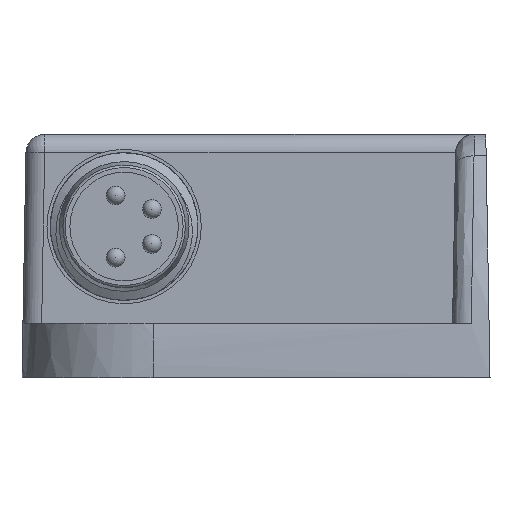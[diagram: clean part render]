
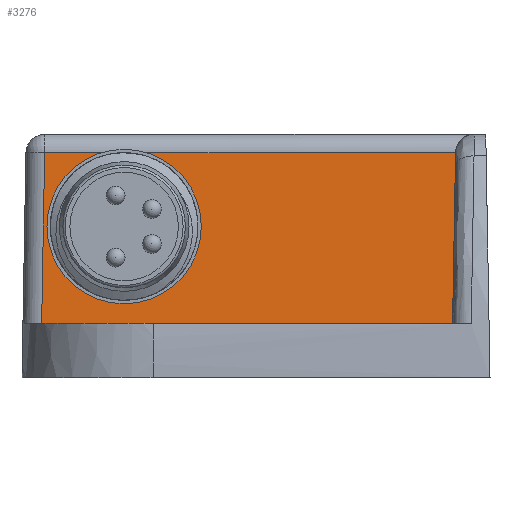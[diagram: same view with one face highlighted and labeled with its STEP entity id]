
A CAD part, left-side view. The second image highlights one B-rep face of the part: STEP entity #3276.
In plain terms, the highlighted planar face has unit normal (-1, 0, 0.018).
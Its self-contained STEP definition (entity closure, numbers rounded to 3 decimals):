
#18=ELLIPSE('',#3424,3.501,3.5);
#93=FACE_BOUND('',#611,.T.);
#227=PLANE('',#3585);
#407=FACE_OUTER_BOUND('',#610,.T.);
#610=EDGE_LOOP('',(#3001,#3002,#3003,#3004));
#611=EDGE_LOOP('',(#3005));
#1035=LINE('',#6347,#1356);
#1047=LINE('',#6449,#1368);
#1048=LINE('',#6452,#1369);
#1049=LINE('',#6453,#1370);
#1356=VECTOR('',#4409,10.);
#1368=VECTOR('',#4471,10.);
#1369=VECTOR('',#4474,10.);
#1370=VECTOR('',#4475,10.);
#1452=VERTEX_POINT('',#5553);
#1657=VERTEX_POINT('',#6345);
#1658=VERTEX_POINT('',#6346);
#1671=VERTEX_POINT('',#6447);
#1672=VERTEX_POINT('',#6451);
#1794=EDGE_CURVE('',#1452,#1452,#18,.T.);
#2097=EDGE_CURVE('',#1657,#1658,#1035,.T.);
#2125=EDGE_CURVE('',#1658,#1671,#1047,.T.);
#2126=EDGE_CURVE('',#1671,#1672,#1048,.T.);
#2127=EDGE_CURVE('',#1672,#1657,#1049,.T.);
#3001=ORIENTED_EDGE('',*,*,#2097,.T.);
#3002=ORIENTED_EDGE('',*,*,#2125,.T.);
#3003=ORIENTED_EDGE('',*,*,#2126,.T.);
#3004=ORIENTED_EDGE('',*,*,#2127,.T.);
#3005=ORIENTED_EDGE('',*,*,#1794,.F.);
#3276=ADVANCED_FACE('',(#407,#93),#227,.T.);
#3424=AXIS2_PLACEMENT_3D('',#5555,#3876,#3877);
#3585=AXIS2_PLACEMENT_3D('',#6450,#4472,#4473);
#3876=DIRECTION('center_axis',(-1.,0.,
0.017));
#3877=DIRECTION('ref_axis',(0.017,0.,1.));
#4409=DIRECTION('',(0.,1.,0.));
#4471=DIRECTION('',(-0.017,0.017,-1.));
#4472=DIRECTION('center_axis',(-1.,0.,
0.017));
#4473=DIRECTION('ref_axis',(0.,-1.,0.));
#4474=DIRECTION('',(0.,-1.,0.));
#4475=DIRECTION('',(0.017,-0.017,1.));
#5553=CARTESIAN_POINT('',(-33.97,19.5,4.6));
#5555=CARTESIAN_POINT('Origin',(-33.909,19.5,8.1));
#6345=CARTESIAN_POINT('',(-33.841,1.841,12.017));
#6346=CARTESIAN_POINT('',(-33.841,23.79,12.017));
#6347=CARTESIAN_POINT('',(-33.841,7.25,12.017));
#6447=CARTESIAN_POINT('',(-34.,23.95,2.9));
#6449=CARTESIAN_POINT('',(-34.024,23.973,1.546));
#6450=CARTESIAN_POINT('Origin',(-34.,2.,2.9));
#6451=CARTESIAN_POINT('',(-34.,2.,2.9));
#6452=CARTESIAN_POINT('',(-34.,26.,2.9));
#6453=CARTESIAN_POINT('',(-34.002,2.002,2.804));
